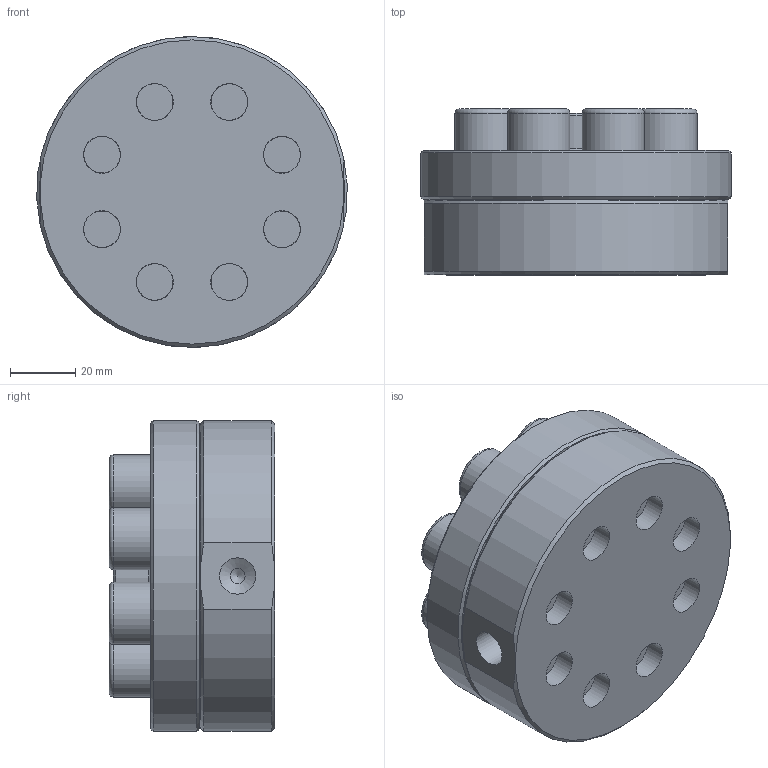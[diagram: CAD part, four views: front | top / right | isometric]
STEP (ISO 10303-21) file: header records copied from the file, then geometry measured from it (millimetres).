
FILE_DESCRIPTION(/* description */ (''),/* implementation_level */ '2;1');
FILE_NAME(/* name */ 'Z:\Models\Instrument Series\EB1HT\HT1_HT2_External.stp',/* time_stamp */ '2017-03-14T10:30:33-04:00',/* author */ ('Owner'),/* organization */ (''),/* preprocessor_version */ 'ST-DEVELOPER v15.6',/* originating_system */ 'Autodesk Inventor 2015',/* authorisation */ '');
FILE_SCHEMA (('CONFIG_CONTROL_DESIGN'));
Length unit declared in the file: inch
Products named in the file (6): EB1HT2; EB1HT RC; Graphoil Gasket; HT1 Diaphragm; ANSI B18.3 - 1_2-20 UNF - 1.25(31); EB1HT1 Assembly
Assembly tree (13 placements, depth 2):
  EB1HT1 Assembly
    EB1HT2
    EB1HT RC
    Graphoil Gasket  x2
    HT1 Diaphragm
    ANSI B18.3 - 1_2-20 UNF - 1.25(31)  x8
Bounding box: 95.16 x 50.8 x 95.25 mm (x, y, z)
Volume: 294715.2 mm3; surface area: 82640.6 mm2
Topology: 13 solids, 13 shells, 206 faces, 479 edges, 314 vertices
Faces by surface type: plane 98, cylinder 57, cone 29, torus 21, sphere 1
Full cylindrical faces by diameter (mm): 0.762 x1, 4.572 x2, 8.611 x1, 11.112 x2, 11.328 x8, 12.7 x8, 13.106 x16, 19.05 x8, 30.48 x1, 33.02 x2, 40.64 x2, 82.55 x1, 95.25 x1
Entity records: 2733 total; most frequent: DIRECTION 478, CARTESIAN_POINT 462, ORIENTED_EDGE 326, AXIS2_PLACEMENT_3D 221, EDGE_LOOP 212, EDGE_CURVE 163, VERTEX_POINT 139, FACE_BOUND 115
